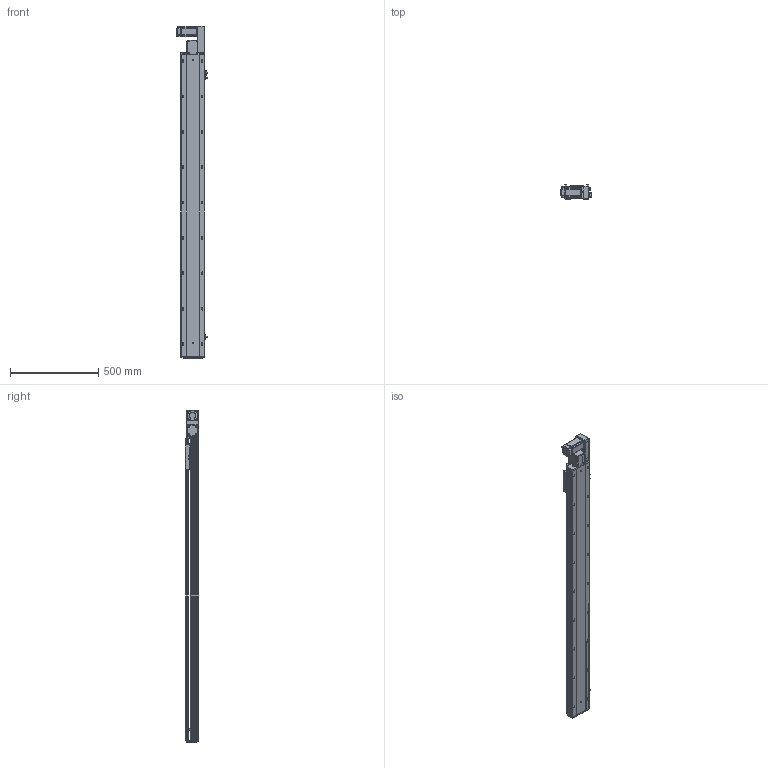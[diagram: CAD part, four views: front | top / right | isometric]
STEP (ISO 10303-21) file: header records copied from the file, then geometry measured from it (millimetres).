
FILE_DESCRIPTION (( 'STEP AP203' ), '1' );
FILE_NAME ('RY140-T-300-RK.SLDASM_1450.step', '2021-03-01T06:46:28', ( '盈信电脑' ), ( '东莞市道滘镇水果街19号' ), 'SwSTEP 2.0', 'SolidWorks 2012', '' );
FILE_SCHEMA (( 'CONFIG_CONTROL_DESIGN' ));
Products named in the file (17): RY140-T-300-RK.SLDASM_1450; RY120-T蹟翐M4; RY140-T萇儂假蚾啣; 15; RY120-T主同步轮轴承压盖; RY140-T萇儂欶; 滅袉蝶18-10; RY140-T翋肮謫裔啣; RY120-T肮祭湍揤踡輸2; RY120外置感应片(140共用）; RY140-T翋肮祭謫盓傅釱; RY120-T肮祭湍揤踡輸1; RY140綴裔啣; RY140肮祭謫臏賑輸; RY140-T-300-DR倰第奻裔啣_1450; 覜茼ん672; RY140-T-300-DR倰第菁釱_1450
Assembly tree (22 placements, depth 2):
  RY140-T-300-RK.SLDASM_1450
    RY140-T-300-DR倰第菁釱_1450
    RY140肮祭謫臏賑輸
    RY140-T-300-DR倰第奻裔啣_1450
    RY140綴裔啣
    覜茼ん672  x3
    RY120外置感应片(140共用）
    RY120-T肮祭湍揤踡輸2
    RY120-T肮祭湍揤踡輸1
    RY140-T翋肮祭謫盓傅釱
    滅袉蝶18-10  x2
    RY140-T翋肮謫裔啣
    RY140-T萇儂欶
    RY140-T萇儂假蚾啣
    RY120-T蹟翐M4  x4
    15
    RY120-T主同步轮轴承压盖
Bounding box: 170.7 x 78 x 1876.5 mm (x, y, z)
Volume: 5073668 mm3; surface area: 1963708.3 mm2
Topology: 22 solids, 22 shells, 2759 faces, 7557 edges, 4828 vertices
Faces by surface type: plane 1381, cylinder 1028, cone 250, bspline 100
Entity records: 87046 total; most frequent: CARTESIAN_POINT 21187, ORIENTED_EDGE 13538, DIRECTION 12917, EDGE_CURVE 6769, VERTEX_POINT 4427, AXIS2_PLACEMENT_3D 4310, VECTOR 4297, LINE 4297
